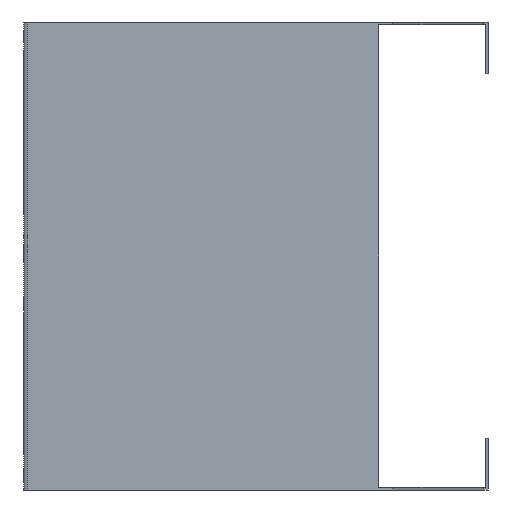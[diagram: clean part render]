
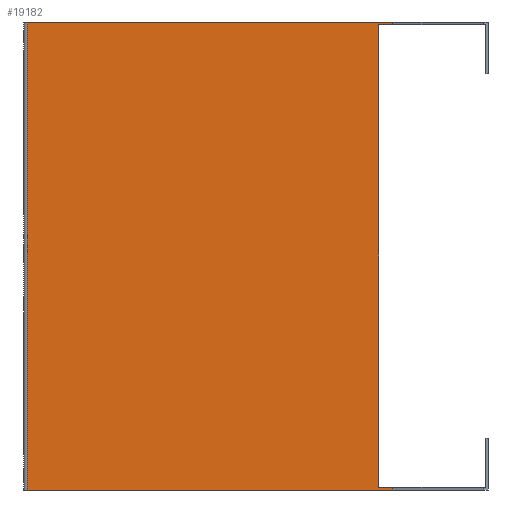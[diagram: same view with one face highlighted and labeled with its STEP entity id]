
A CAD part, left-side view. The second image highlights one B-rep face of the part: STEP entity #19182.
In plain terms, the highlighted planar face has unit normal (-1, 0, 0).
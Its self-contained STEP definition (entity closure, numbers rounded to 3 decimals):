
#300 = ORIENTED_EDGE ( 'NONE', *, *, #23895, .F. ) ;
#443 = DIRECTION ( 'NONE',  ( 0., 0., -1. ) ) ;
#515 = EDGE_CURVE ( 'NONE', #18441, #13279, #38288, .T. ) ;
#582 = CARTESIAN_POINT ( 'NONE',  ( -295.357, 299.991, 480. ) ) ;
#985 = EDGE_CURVE ( 'NONE', #1055, #18441, #25891, .T. ) ;
#1055 = VERTEX_POINT ( 'NONE', #34636 ) ;
#2743 = LINE ( 'NONE', #37957, #34312 ) ;
#2857 = ORIENTED_EDGE ( 'NONE', *, *, #35491, .F. ) ;
#3231 = CARTESIAN_POINT ( 'NONE',  ( -295.357, -74.802, 2.8 ) ) ;
#3545 = LINE ( 'NONE', #37729, #26030 ) ;
#4112 = CARTESIAN_POINT ( 'NONE',  ( -295.357, 299.991, 0. ) ) ;
#4363 = EDGE_LOOP ( 'NONE', ( #300, #19422, #37167, #26375, #27555, #39270, #13182, #2857 ) ) ;
#5369 = CARTESIAN_POINT ( 'NONE',  ( -295.357, 299.991, 0. ) ) ;
#5874 = VERTEX_POINT ( 'NONE', #8430 ) ;
#6025 = LINE ( 'NONE', #33476, #9378 ) ;
#7022 = DIRECTION ( 'NONE',  ( 0., 0., -1. ) ) ;
#7638 = VECTOR ( 'NONE', #38695, 1000. ) ;
#7822 = VERTEX_POINT ( 'NONE', #26478 ) ;
#8430 = CARTESIAN_POINT ( 'NONE',  ( -295.357, -74.802, 0. ) ) ;
#8592 = CARTESIAN_POINT ( 'NONE',  ( -295.357, -60.251, 2.8 ) ) ;
#9142 = DIRECTION ( 'NONE',  ( 0., 1., 0. ) ) ;
#9378 = VECTOR ( 'NONE', #36669, 1000. ) ;
#9659 = VECTOR ( 'NONE', #11799, 1000. ) ;
#9814 = PLANE ( 'NONE',  #19072 ) ;
#10856 = FACE_OUTER_BOUND ( 'NONE', #4363, .T. ) ;
#11799 = DIRECTION ( 'NONE',  ( 0., 0., -1. ) ) ;
#12509 = VECTOR ( 'NONE', #9142, 1000. ) ;
#13182 = ORIENTED_EDGE ( 'NONE', *, *, #28655, .T. ) ;
#13279 = VERTEX_POINT ( 'NONE', #33034 ) ;
#16416 = LINE ( 'NONE', #35799, #19743 ) ;
#18136 = CARTESIAN_POINT ( 'NONE',  ( -295.357, 299.991, 477.2 ) ) ;
#18441 = VERTEX_POINT ( 'NONE', #37776 ) ;
#18814 = DIRECTION ( 'NONE',  ( 1., 0., 0. ) ) ;
#19072 = AXIS2_PLACEMENT_3D ( 'NONE', #582, #18814, #443 ) ;
#19182 = ADVANCED_FACE ( 'NONE', ( #10856 ), #9814, .F. ) ;
#19422 = ORIENTED_EDGE ( 'NONE', *, *, #21359, .F. ) ;
#19743 = VECTOR ( 'NONE', #32605, 1000. ) ;
#20460 = LINE ( 'NONE', #35925, #7638 ) ;
#21359 = EDGE_CURVE ( 'NONE', #13279, #28336, #3545, .T. ) ;
#21622 = VERTEX_POINT ( 'NONE', #5369 ) ;
#22996 = DIRECTION ( 'NONE',  ( 0., 0., -1. ) ) ;
#23895 = EDGE_CURVE ( 'NONE', #28336, #35296, #20460, .T. ) ;
#23960 = CARTESIAN_POINT ( 'NONE',  ( -295.357, -74.802, 480. ) ) ;
#25891 = LINE ( 'NONE', #23960, #9659 ) ;
#26030 = VECTOR ( 'NONE', #7022, 1000. ) ;
#26375 = ORIENTED_EDGE ( 'NONE', *, *, #985, .F. ) ;
#26478 = CARTESIAN_POINT ( 'NONE',  ( -295.357, 299.991, 480. ) ) ;
#27555 = ORIENTED_EDGE ( 'NONE', *, *, #36893, .F. ) ;
#28336 = VERTEX_POINT ( 'NONE', #8592 ) ;
#28655 = EDGE_CURVE ( 'NONE', #21622, #5874, #38454, .T. ) ;
#28713 = DIRECTION ( 'NONE',  ( 0., -1., 0. ) ) ;
#29853 = VECTOR ( 'NONE', #28713, 1000. ) ;
#32605 = DIRECTION ( 'NONE',  ( 0., 0., -1. ) ) ;
#33034 = CARTESIAN_POINT ( 'NONE',  ( -295.357, -60.251, 477.2 ) ) ;
#33476 = CARTESIAN_POINT ( 'NONE',  ( -295.357, 299.991, 480. ) ) ;
#34312 = VECTOR ( 'NONE', #22996, 1000. ) ;
#34636 = CARTESIAN_POINT ( 'NONE',  ( -295.357, -74.802, 480. ) ) ;
#35296 = VERTEX_POINT ( 'NONE', #3231 ) ;
#35491 = EDGE_CURVE ( 'NONE', #35296, #5874, #2743, .T. ) ;
#35799 = CARTESIAN_POINT ( 'NONE',  ( -295.357, 299.991, 480. ) ) ;
#35925 = CARTESIAN_POINT ( 'NONE',  ( -295.357, 299.991, 2.8 ) ) ;
#36669 = DIRECTION ( 'NONE',  ( 0., -1., 0. ) ) ;
#36893 = EDGE_CURVE ( 'NONE', #7822, #1055, #6025, .T. ) ;
#37167 = ORIENTED_EDGE ( 'NONE', *, *, #515, .F. ) ;
#37729 = CARTESIAN_POINT ( 'NONE',  ( -295.357, -60.251, 480. ) ) ;
#37776 = CARTESIAN_POINT ( 'NONE',  ( -295.357, -74.802, 477.2 ) ) ;
#37957 = CARTESIAN_POINT ( 'NONE',  ( -295.357, -74.802, 480. ) ) ;
#38285 = EDGE_CURVE ( 'NONE', #7822, #21622, #16416, .T. ) ;
#38288 = LINE ( 'NONE', #18136, #12509 ) ;
#38454 = LINE ( 'NONE', #4112, #29853 ) ;
#38695 = DIRECTION ( 'NONE',  ( 0., -1., 0. ) ) ;
#39270 = ORIENTED_EDGE ( 'NONE', *, *, #38285, .T. ) ;
